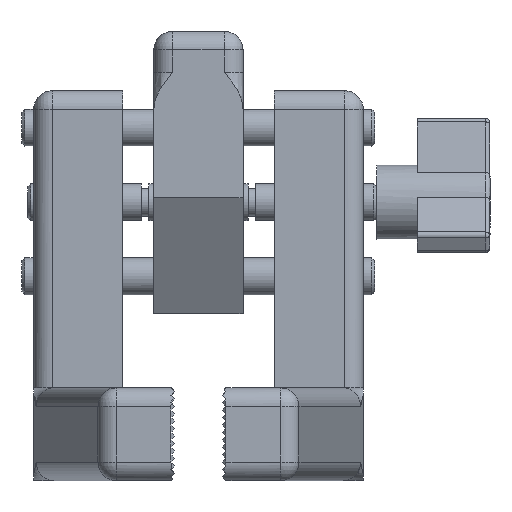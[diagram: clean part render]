
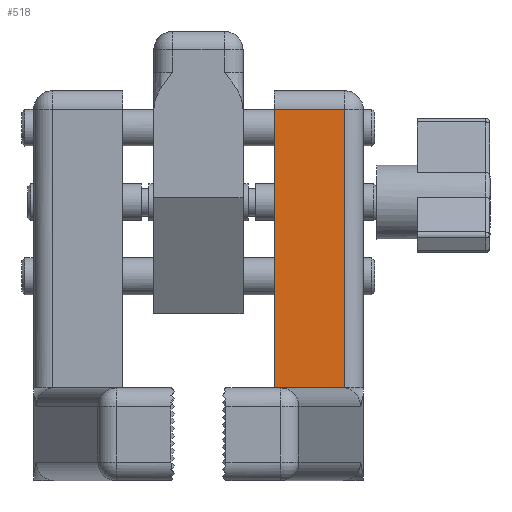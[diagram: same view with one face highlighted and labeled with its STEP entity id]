
A CAD part, left-side view. The second image highlights one B-rep face of the part: STEP entity #518.
In plain terms, the highlighted planar face has unit normal (-1, 0, 0).
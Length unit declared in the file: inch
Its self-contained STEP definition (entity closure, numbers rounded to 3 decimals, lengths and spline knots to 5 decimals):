
#368=CARTESIAN_POINT('',(11.07518,45.60913,51.78098));
#369=VERTEX_POINT('',#368);
#377=CARTESIAN_POINT('',(11.07518,45.60913,49.90598));
#378=VERTEX_POINT('',#377);
#379=CARTESIAN_POINT('',(11.07518,45.60913,51.78098));
#380=DIRECTION('',(0.0,0.0,-1.0));
#381=VECTOR('',#380,1.875);
#382=LINE('',#379,#381);
#383=EDGE_CURVE('',#369,#378,#382,.T.);
#488=CARTESIAN_POINT('',(11.07518,45.78413,50.90598));
#489=DIRECTION('',(1.0,0.0,0.0));
#490=DIRECTION('',(0.0,1.0,0.0));
#491=AXIS2_PLACEMENT_3D('',#488,#489,#490);
#492=PLANE('',#491);
#493=ORIENTED_EDGE('',*,*,#383,.F.);
#494=CARTESIAN_POINT('',(11.07518,46.08413,51.78098));
#495=VERTEX_POINT('',#494);
#496=CARTESIAN_POINT('',(11.07518,46.08413,51.78098));
#497=DIRECTION('',(0.0,-1.0,0.0));
#498=VECTOR('',#497,0.475);
#499=LINE('',#496,#498);
#500=EDGE_CURVE('',#495,#369,#499,.T.);
#501=ORIENTED_EDGE('',*,*,#500,.F.);
#502=CARTESIAN_POINT('',(11.07518,46.08413,49.90598));
#503=VERTEX_POINT('',#502);
#504=CARTESIAN_POINT('',(11.07518,46.08413,49.90598));
#505=DIRECTION('',(0.0,0.0,1.0));
#506=VECTOR('',#505,1.875);
#507=LINE('',#504,#506);
#508=EDGE_CURVE('',#503,#495,#507,.T.);
#509=ORIENTED_EDGE('',*,*,#508,.F.);
#510=CARTESIAN_POINT('',(11.07518,45.60913,49.90598));
#511=DIRECTION('',(0.0,1.0,0.0));
#512=VECTOR('',#511,0.475);
#513=LINE('',#510,#512);
#514=EDGE_CURVE('',#378,#503,#513,.T.);
#515=ORIENTED_EDGE('',*,*,#514,.F.);
#516=EDGE_LOOP('',(#493,#501,#509,#515));
#517=FACE_OUTER_BOUND('',#516,.T.);
#518=ADVANCED_FACE('',(#517),#492,.F.);
